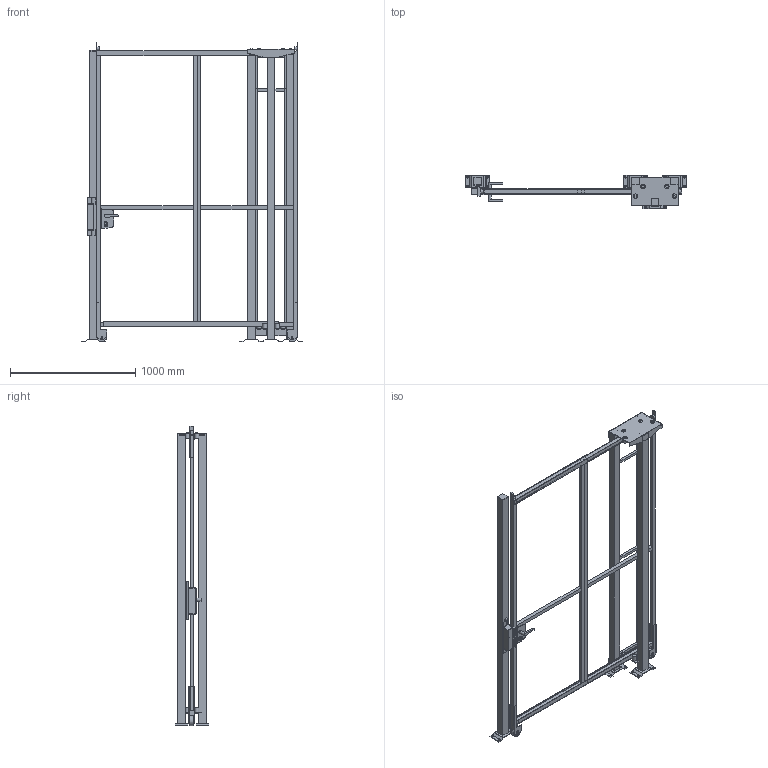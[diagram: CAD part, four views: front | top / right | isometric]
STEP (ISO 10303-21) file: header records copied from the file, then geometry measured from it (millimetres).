
FILE_DESCRIPTION(/* description */ (''),/* implementation_level */ '2;1');
FILE_NAME(/* name */ 'C:\SafeGuarding\ELABORATI\KLADKOUGAMMA_2025-03-20-14-34-14.stp',/* time_stamp */ '2025-03-20T14:34:16+01:00',/* author */ ('admin'),/* organization */ (''),/* preprocessor_version */ 'ST-DEVELOPER v18.1',/* originating_system */ 'AutoCAD Mechanical',/* authorisation */ '');
FILE_SCHEMA (('AUTOMOTIVE_DESIGN { 1 0 10303 214 3 1 1 }','PROCESS_PLANNING_SCHEMA'));
Length unit declared in the file: millimetre
Products named in the file (5): Product; R_VFPA.REPE30.08002200; R_VFPA.REPE20.02502200; P_VFMA.V260SDU.2320; R_VFPA.REPE20.02501900
Assembly tree (8 placements, depth 2):
  Product
    R_VFPA.REPE30.08002200  x2
    P_VFMA.V260SDU.2320  x4
    R_VFPA.REPE20.02502200
    R_VFPA.REPE20.02501900
Bounding box: 1761.92 x 264 x 2390.02 mm (x, y, z)
Volume: 53655157.4 mm3; surface area: 7078688.9 mm2
Topology: 72 solids, 72 shells, 632 faces, 1800 edges, 1776 vertices
Faces by surface type: plane 554, cylinder 74, bspline 4
Full cylindrical faces by diameter (mm): 9 x4, 11 x16, 13 x4, 18 x1, 25 x2, 25.398 x2, 30 x6, 36 x8, 80 x2
Entity records: 17553 total; most frequent: CARTESIAN_POINT 4509, DIRECTION 2600, ORIENTED_EDGE 2350, EDGE_CURVE 1175, LINE 1158, VECTOR 1158, VERTEX_POINT 790, AXIS2_PLACEMENT_3D 721
